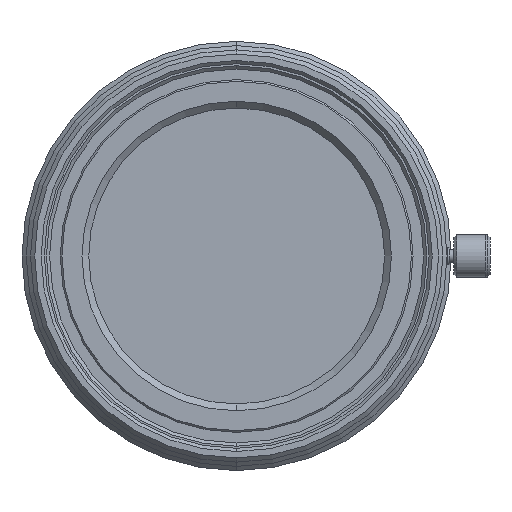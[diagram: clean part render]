
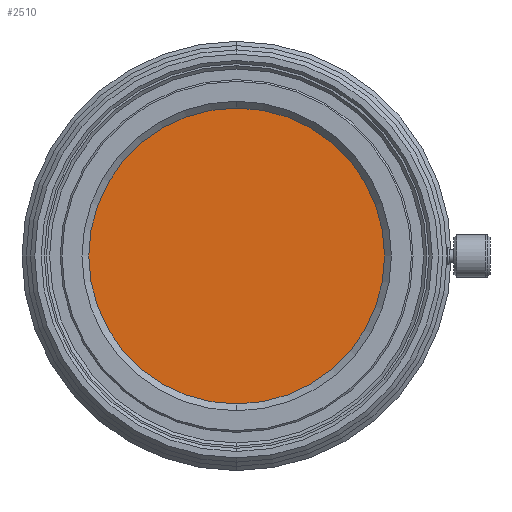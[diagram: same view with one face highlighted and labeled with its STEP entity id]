
A CAD part, left-side view. The second image highlights one B-rep face of the part: STEP entity #2510.
In plain terms, the highlighted planar face has unit normal (-1, 0, 0).
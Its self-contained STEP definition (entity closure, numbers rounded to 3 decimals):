
#78 = VERTEX_POINT ( 'NONE', #3525 ) ;
#336 = DIRECTION ( 'NONE',  ( 1., 0., 0. ) ) ;
#420 = ORIENTED_EDGE ( 'NONE', *, *, #3704, .T. ) ;
#731 = CARTESIAN_POINT ( 'NONE',  ( 17.159, 0., 0. ) ) ;
#925 = DIRECTION ( 'NONE',  ( -1., 0., 0. ) ) ;
#1021 = EDGE_LOOP ( 'NONE', ( #420, #2767 ) ) ;
#1039 = DIRECTION ( 'NONE',  ( 0., 0., 1. ) ) ;
#1052 = FACE_OUTER_BOUND ( 'NONE', #1021, .T. ) ;
#1172 = VERTEX_POINT ( 'NONE', #3693 ) ;
#1565 = PLANE ( 'NONE',  #2332 ) ;
#1650 = AXIS2_PLACEMENT_3D ( 'NONE', #731, #2881, #1039 ) ;
#1746 = CIRCLE ( 'NONE', #1650, 17.4 ) ;
#1826 = EDGE_CURVE ( 'NONE', #1172, #78, #1746, .T. ) ;
#2167 = CARTESIAN_POINT ( 'NONE',  ( 17.159, 0., 0. ) ) ;
#2332 = AXIS2_PLACEMENT_3D ( 'NONE', #2167, #336, #2489 ) ;
#2476 = CIRCLE ( 'NONE', #3380, 17.4 ) ;
#2489 = DIRECTION ( 'NONE',  ( 0., 0., -1. ) ) ;
#2510 = ADVANCED_FACE ( 'NONE', ( #1052 ), #1565, .F. ) ;
#2764 = CARTESIAN_POINT ( 'NONE',  ( 17.159, 0., 0. ) ) ;
#2767 = ORIENTED_EDGE ( 'NONE', *, *, #1826, .T. ) ;
#2881 = DIRECTION ( 'NONE',  ( -1., 0., 0. ) ) ;
#3076 = DIRECTION ( 'NONE',  ( 0., 0., 1. ) ) ;
#3380 = AXIS2_PLACEMENT_3D ( 'NONE', #2764, #925, #3076 ) ;
#3525 = CARTESIAN_POINT ( 'NONE',  ( 17.159, 0., 17.4 ) ) ;
#3693 = CARTESIAN_POINT ( 'NONE',  ( 17.159, 0., -17.4 ) ) ;
#3704 = EDGE_CURVE ( 'NONE', #78, #1172, #2476, .T. ) ;
